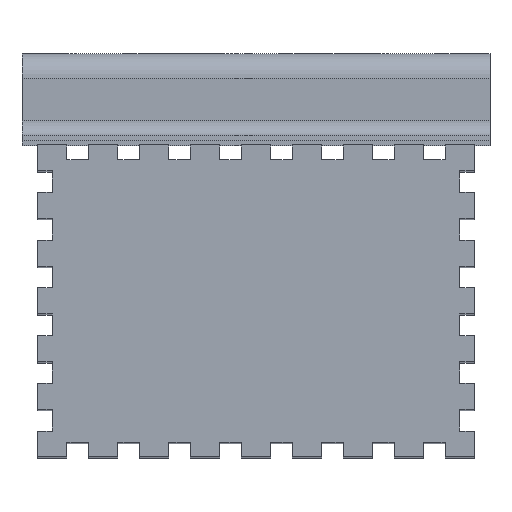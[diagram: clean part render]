
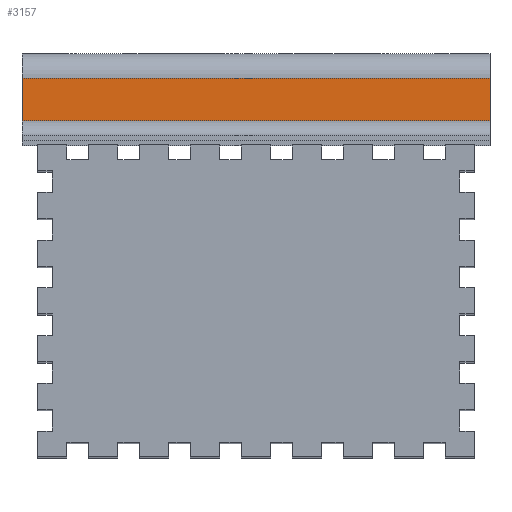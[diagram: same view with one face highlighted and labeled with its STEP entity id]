
A CAD part, top view. The second image highlights one B-rep face of the part: STEP entity #3157.
In plain terms, the highlighted planar face has unit normal (0, 0, 1) as drawn and (0, -1, 0) by its records, which use the part's own axes.
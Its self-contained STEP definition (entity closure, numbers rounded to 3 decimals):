
#176=ORIENTED_EDGE('',*,*,#1096,.F.);
#177=ORIENTED_EDGE('',*,*,#1050,.T.);
#178=ORIENTED_EDGE('',*,*,#1097,.T.);
#179=ORIENTED_EDGE('',*,*,#1066,.T.);
#1050=EDGE_CURVE('',#1517,#1516,#1817,.T.);
#1066=EDGE_CURVE('',#1531,#1530,#1827,.T.);
#1096=EDGE_CURVE('',#1517,#1530,#1848,.T.);
#1097=EDGE_CURVE('',#1516,#1531,#1849,.T.);
#1516=VERTEX_POINT('',#4420);
#1517=VERTEX_POINT('',#4422);
#1530=VERTEX_POINT('',#4451);
#1531=VERTEX_POINT('',#4453);
#1817=LINE('',#4421,#2257);
#1827=LINE('',#4452,#2267);
#1848=LINE('',#4506,#2288);
#1849=LINE('',#4507,#2289);
#2257=VECTOR('',#3573,1000.);
#2267=VECTOR('',#3597,1000.);
#2288=VECTOR('',#3650,1000.);
#2289=VECTOR('',#3651,1000.);
#2682=EDGE_LOOP('',(#176,#177,#178,#179));
#2848=FACE_BOUND('',#2682,.T.);
#3010=PLANE('',#3357);
#3157=ADVANCED_FACE('',(#2848),#3010,.T.);
#3357=AXIS2_PLACEMENT_3D('',#4505,#3648,#3649);
#3573=DIRECTION('',(0.,0.,-1.));
#3597=DIRECTION('',(0.,0.,1.));
#3648=DIRECTION('',(0.,-1.,0.));
#3649=DIRECTION('',(0.,0.,-1.));
#3650=DIRECTION('',(1.,0.,0.));
#3651=DIRECTION('',(1.,0.,0.));
#4420=CARTESIAN_POINT('',(-38.1,-13.5,4.039));
#4421=CARTESIAN_POINT('',(-38.1,-13.5,1.594));
#4422=CARTESIAN_POINT('',(-38.1,-13.5,10.947));
#4451=CARTESIAN_POINT('',(38.1,-13.5,10.947));
#4452=CARTESIAN_POINT('',(38.1,-13.5,1.594));
#4453=CARTESIAN_POINT('',(38.1,-13.5,4.039));
#4505=CARTESIAN_POINT('',(-38.1,-13.5,1.594));
#4506=CARTESIAN_POINT('',(-38.1,-13.5,10.947));
#4507=CARTESIAN_POINT('',(-38.1,-13.5,4.039));
